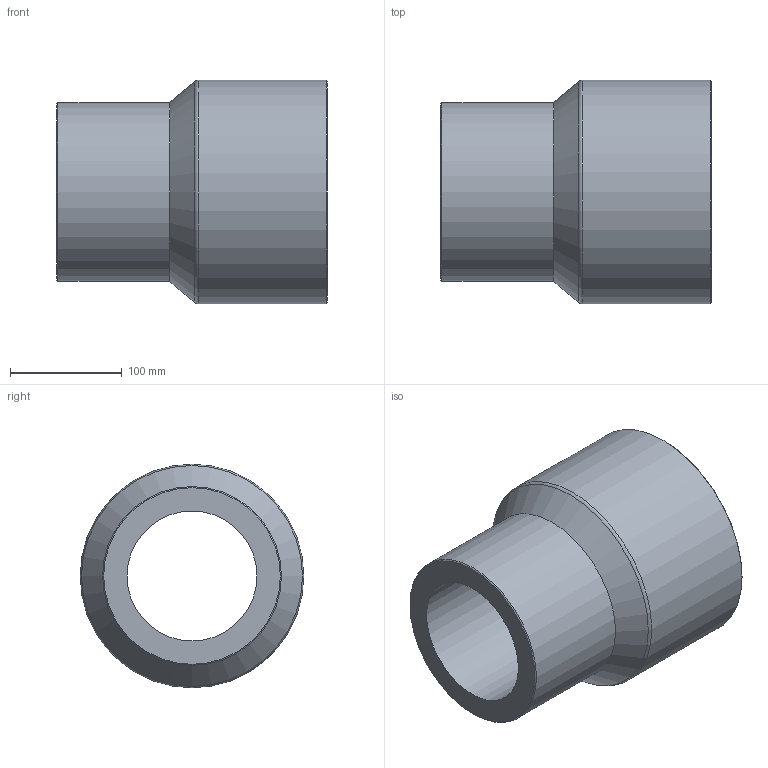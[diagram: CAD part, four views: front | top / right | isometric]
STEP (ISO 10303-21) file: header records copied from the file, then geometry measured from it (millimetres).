
FILE_DESCRIPTION(/* description */ ('Unknown'),/* implementation_level */ '2;1');
FILE_NAME(/* name */ 'RP200160H',/* time_stamp */ '2021-09-16T15:06:13+02:00',/* author */ ('Unknown'),/* organization */ ('Unknown'),/* preprocessor_version */ 'ST-DEVELOPER v16.7',/* originating_system */ 'Solid Edge',/* authorisation */ 'Unknown');
FILE_SCHEMA (('AUTOMOTIVE_DESIGN {1 0 10303 214 3 1 1}'));
Length unit declared in the file: millimetre
Products named in the file (1): RP200160H
Bounding box: 242 x 200 x 200 mm (x, y, z)
Volume: 3068224.8 mm3; surface area: 265736.4 mm2
Topology: 1 solids, 1 shells, 11 faces, 22 edges, 13 vertices
Faces by surface type: cylinder 4, cone 4, plane 2, torus 1
Full cylindrical faces by diameter (mm): 116.2 x1, 145.2 x1, 160 x1, 200 x1
Entity records: 258 total; most frequent: DIRECTION 46, CARTESIAN_POINT 34, AXIS2_PLACEMENT_3D 23, ORIENTED_EDGE 22, EDGE_LOOP 22, FACE_BOUND 22, EDGE_CURVE 11, VERTEX_POINT 11
